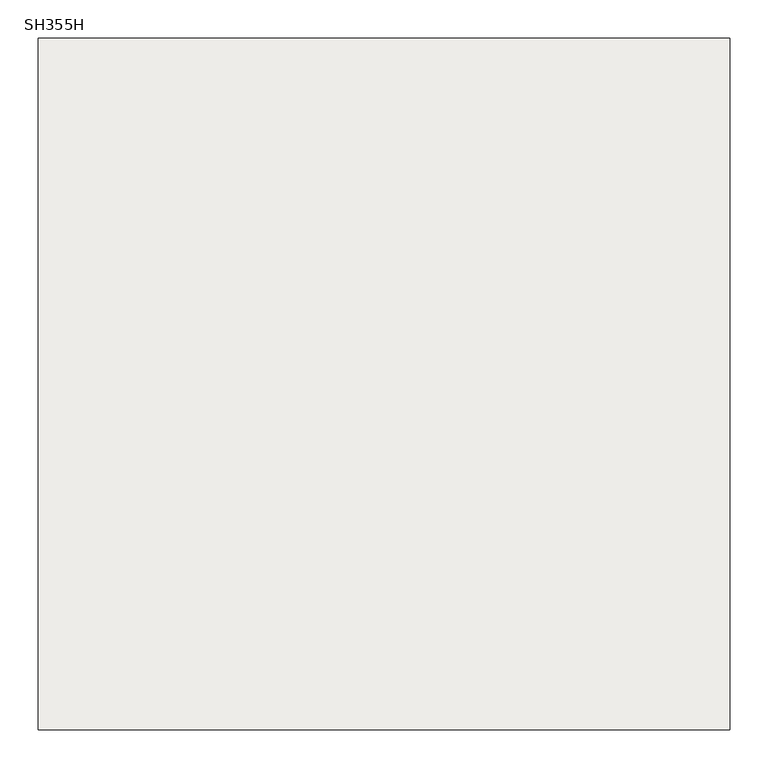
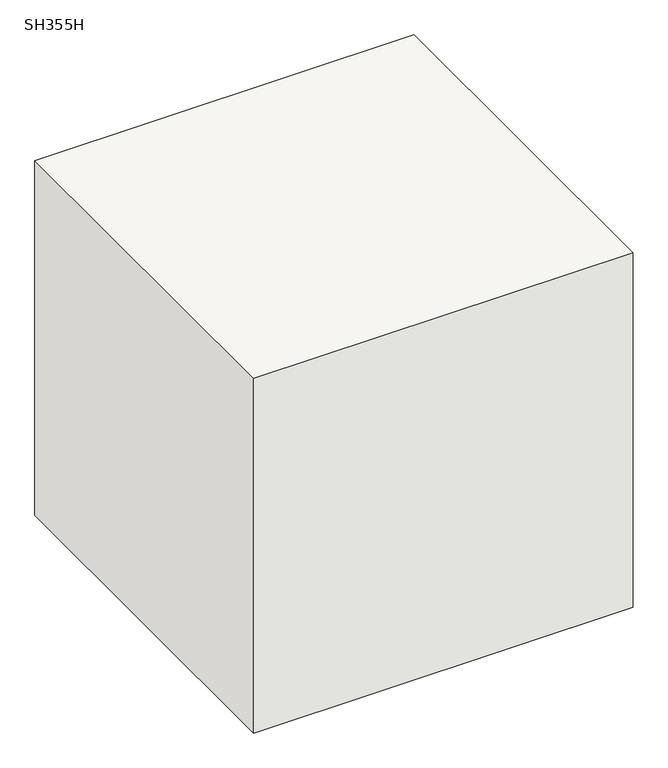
"""IFC4 building model written with IfcOpenShell, lengths in millimetres: slab geometry, 柱形_SH : SH355H."""

from ifc_helpers import new_model, si_unit, frame, origin, place, context, project, spatial, polyline, outline, extrude, source, transform, mapped, element, save


def sh355h_837e37f4(model_context):
    return source(origin(), model_context, "Body", "SweptSolid", [
        extrude(outline(polyline([(455.0, 455.0), (455.0, -455.0), (-455.0, -455.0), (-455.0, 455.0), (455.0, 455.0)])), frame((0.0, 0.0, -900.0), z_axis=(0.0, 0.0, 1.0), x_axis=(1.0, 0.0, 0.0)), (0.0, 0.0, 1.0), 900.0),
    ])


if __name__ == "__main__":
    model = new_model("IFC4")
    model_context = context("Model", 3, world=origin())
    ifc_project = project(units=[si_unit("LENGTHUNIT", "METRE", prefix="MILLI")], contexts=[model_context])
    site = spatial("IfcSite", under=ifc_project)
    building = spatial("IfcBuilding", under=site)
    placement = place(None, origin())
    sh355h_shape = sh355h_837e37f4(model_context)
    element("IfcSlab", 1, ObjectType="柱形_SH : SH355H", at=placement, inside=building, context=model_context, shape_type="MappedRepresentation", body=[
        mapped(sh355h_shape, transform((0.0, 0.0, 0.0), x_axis=(1.0, 0.0, 0.0), y_axis=(0.0, 1.0, 0.0), z_axis=(0.0, 0.0, 1.0))),
    ])
    save(model, "model.ifc")
